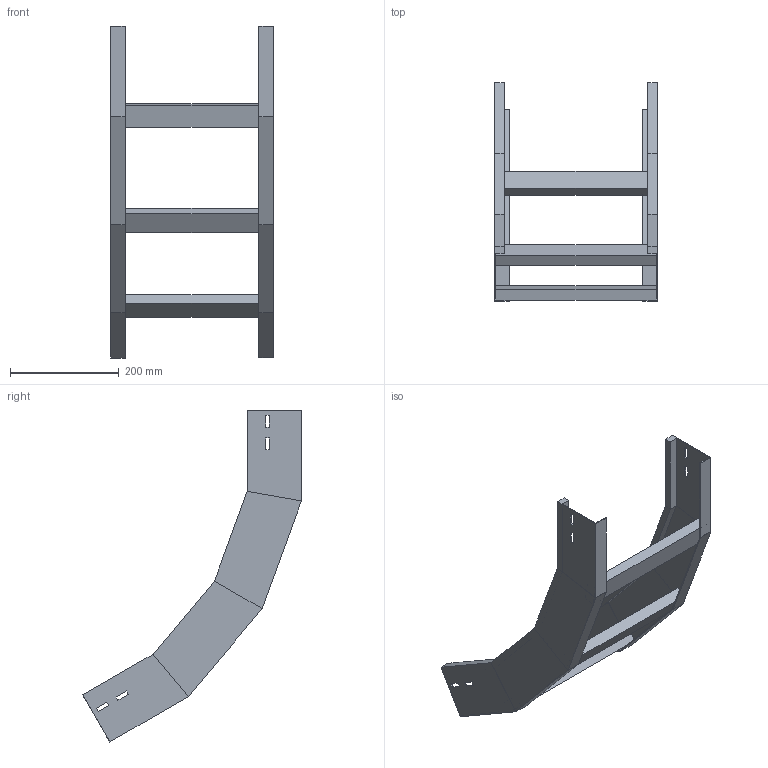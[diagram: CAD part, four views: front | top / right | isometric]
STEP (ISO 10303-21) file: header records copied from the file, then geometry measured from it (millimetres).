
FILE_DESCRIPTION (( 'STEP AP214' ), '1' );
FILE_NAME ('B2X40B5D300XX.step', '2025-03-20T10:13:26', ( '' ), ( '' ), 'SwSTEP 2.0', 'SolidWorks 2023', '' );
FILE_SCHEMA (( 'AUTOMOTIVE_DESIGN' ));
Length unit declared in the file: millimetre
Products named in the file (3): B2X40B5D300XX; LONGH.SALITA_60°_H100_R500; TRAVERSINO_300
Assembly tree (5 placements, depth 2):
  B2X40B5D300XX
    LONGH.SALITA_60°_H100_R500  x2
    TRAVERSINO_300  x3
Bounding box: 300 x 402.87 x 611.18 mm (x, y, z)
Volume: 1326550.8 mm3; surface area: 517491.1 mm2
Topology: 5 solids, 5 shells, 118 faces, 276 edges, 168 vertices
Faces by surface type: plane 118
Entity records: 1672 total; most frequent: CARTESIAN_POINT 276, ORIENTED_EDGE 264, DIRECTION 260, VECTOR 132, EDGE_CURVE 132, LINE 132, VERTEX_POINT 80, EDGE_LOOP 64
